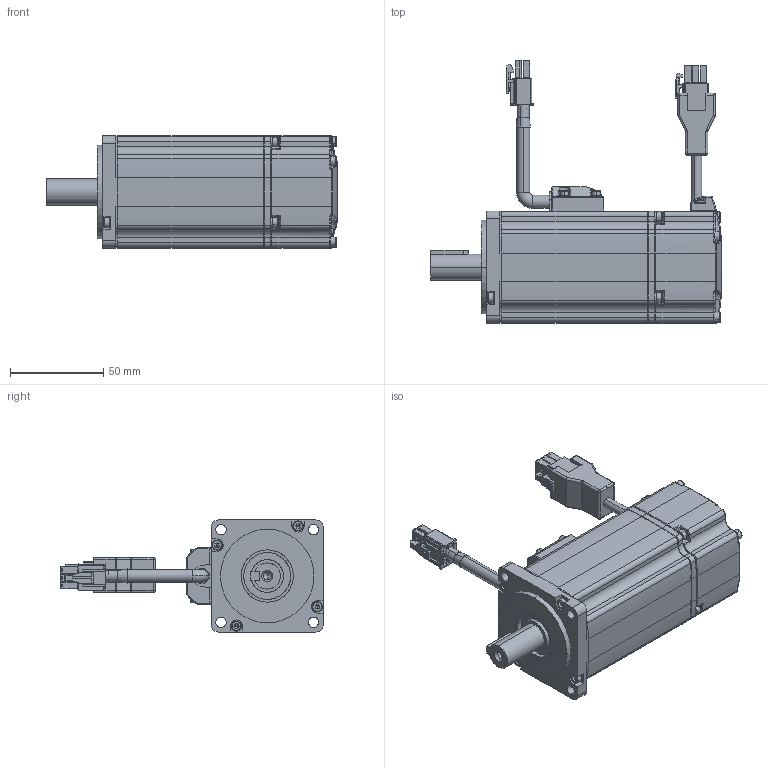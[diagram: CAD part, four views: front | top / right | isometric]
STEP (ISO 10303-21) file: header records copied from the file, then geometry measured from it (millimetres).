
FILE_DESCRIPTION (( 'STEP AP203' ), '1' );
FILE_NAME ('EM3A-02AFA（抱闸）.STEP', '2020-04-10T02:17:50', ( '' ), ( '' ), 'SwSTEP 2.0', 'SolidWorks 2018', '' );
FILE_SCHEMA (( 'CONFIG_CONTROL_DESIGN' ));
Length unit declared in the file: millimetre
Products named in the file (24): 172168-1ㄗAMPㄘ; 复件 EM3A04A-270-A-S2（电源引线盒）^EM3A-02AFA23（4）1; 复件 WA14×28×4 FKM^EM3A-02AFA23（4）1; 热缩套管（直径8黑色）; 复件 EM3A04A-280-A-S1（电源引线垫）^EM3A-02AFA23（4）1; spring lock washers--normal type gb_GB_FASTENER_WASHER_SW 3BX; 雄薯辿盄; 复件 圆头平键5X20^EM3A-02AFA23（4）1; hexagon socket head cap screws gb_GB_FASTENER_SCREWS_HSHCS M3X12-NHDA; ｸｴｼ ﾖ瓲M3A02A-310-A7-S2^EM3A-02AFA23｣ｨ4｣ｩ1; EM3A-02AFA（抱闸）; 萇擢; hexagon socket head cap screws gb_GB_FASTENER_SCREWS_HSHCS M3X40-NHDA; 复件 EM3A04A-120-A1（前端盖）^EM3A-02AFA23（4）1; 脣芛誘杶; hexagon socket head cap screws gb_GB_FASTENER_SCREWS_HSHCS M2.5X12-NHDA; 复件 EM3A02A-210-A1-S2（机壳）^EM3A-02AFA23（4）1_后加工止口，定子成品状态; 172169-1ㄗAMPㄘ; cross recessed pan head tapping screws gb_GB_CROSS_SCREWS_TYPE128 ST2.2X9.5 H C-NBX; 复件 EM3A04A-130-A7（后端盖）^EM3A-02AFA23（4）1; 晤鎢傷辿盄; 复件 EM3A04A-410-A1-S2（编码器罩）^EM3A-02AFA23（4）1_B2; 4X0.75+2X0.35（申远电缆）_不带抱闸; 复件 EM3A04A-420-A-S1（编码器引线盒）^EM3A-02AFA23（4）1
Assembly tree (45 placements, depth 3):
  EM3A-02AFA（抱闸）
    ｸｴｼ ﾖ瓲M3A02A-310-A7-S2^EM3A-02AFA23｣ｨ4｣ｩ1
    复件 EM3A04A-120-A1（前端盖）^EM3A-02AFA23（4）1
    复件 EM3A02A-210-A1-S2（机壳）^EM3A-02AFA23（4）1_后加工止口，定子成品状态
    复件 EM3A04A-130-A7（后端盖）^EM3A-02AFA23（4）1
    复件 EM3A04A-410-A1-S2（编码器罩）^EM3A-02AFA23（4）1_B2
    复件 EM3A04A-420-A-S1（编码器引线盒）^EM3A-02AFA23（4）1
    复件 EM3A04A-270-A-S2（电源引线盒）^EM3A-02AFA23（4）1
    spring lock washers--normal type gb_GB_FASTENER_WASHER_SW 3BX  x8
    hexagon socket head cap screws gb_GB_FASTENER_SCREWS_HSHCS M3X12-NHDA  x8
    hexagon socket head cap screws gb_GB_FASTENER_SCREWS_HSHCS M3X40-NHDA  x4
    hexagon socket head cap screws gb_GB_FASTENER_SCREWS_HSHCS M2.5X12-NHDA  x4
    cross recessed pan head tapping screws gb_GB_CROSS_SCREWS_TYPE128 ST2.2X9.5 H C-NBX  x2
    复件 WA14×28×4 FKM^EM3A-02AFA23（4）1  x2
    复件 EM3A04A-280-A-S1（电源引线垫）^EM3A-02AFA23（4）1
    复件 圆头平键5X20^EM3A-02AFA23（4）1
    晤鎢傷辿盄
      萇擢
      脣芛誘杶
      172169-1ㄗAMPㄘ
    雄薯辿盄
      4X0.75+2X0.35（申远电缆）_不带抱闸
      172168-1ㄗAMPㄘ
      热缩套管（直径8黑色）
Bounding box: 155.5 x 140.49 x 60 mm (x, y, z)
Volume: 176382 mm3; surface area: 105661.2 mm2
Topology: 44 solids, 44 shells, 2510 faces, 6199 edges, 3820 vertices
Faces by surface type: plane 1253, cylinder 746, cone 204, torus 147, bspline 105, sphere 55
Entity records: 66718 total; most frequent: CARTESIAN_POINT 13778, DIRECTION 10490, ORIENTED_EDGE 10308, EDGE_CURVE 5154, AXIS2_PLACEMENT_3D 3602, LINE 3286, VECTOR 3286, VERTEX_POINT 3226
